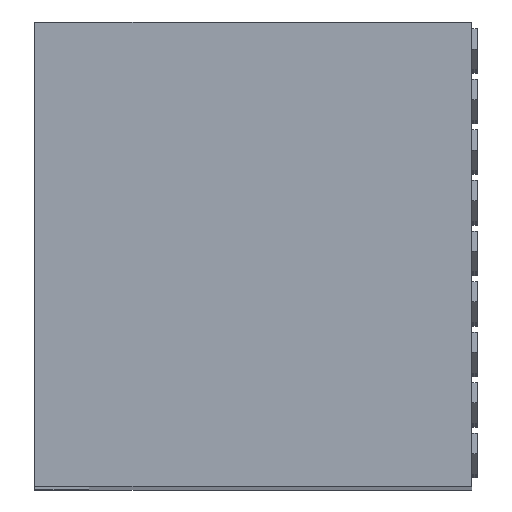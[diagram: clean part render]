
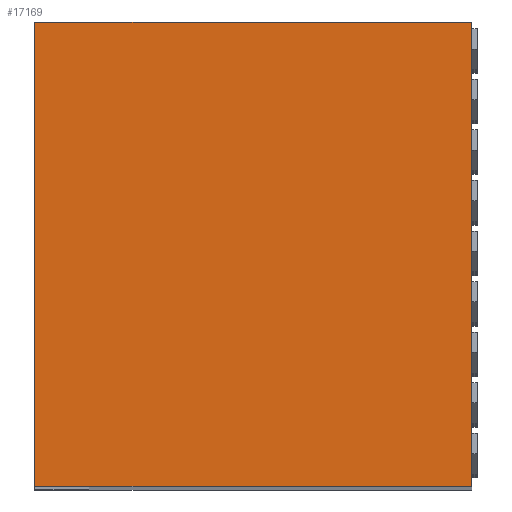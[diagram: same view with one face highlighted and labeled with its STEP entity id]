
A CAD part, top view. The second image highlights one B-rep face of the part: STEP entity #17169.
In plain terms, the highlighted planar face has unit normal (0, 0, 1).
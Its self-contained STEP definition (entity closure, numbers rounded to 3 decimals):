
#235=FACE_OUTER_BOUND('',#1441,.T.);
#1441=EDGE_LOOP('',(#12195,#12196,#12197,#12198));
#2470=LINE('',#23712,#4890);
#2475=LINE('',#23721,#4895);
#2479=LINE('',#23730,#4899);
#3270=LINE('',#25310,#5690);
#4890=VECTOR('',#19262,10.);
#4895=VECTOR('',#19269,10.);
#4899=VECTOR('',#19277,10.);
#5690=VECTOR('',#20070,10.);
#7295=VERTEX_POINT('',#23709);
#7296=VERTEX_POINT('',#23711);
#7299=VERTEX_POINT('',#23719);
#7302=VERTEX_POINT('',#23729);
#8922=EDGE_CURVE('',#7296,#7295,#2470,.F.);
#8927=EDGE_CURVE('',#7295,#7299,#2475,.F.);
#8931=EDGE_CURVE('',#7302,#7296,#2479,.F.);
#9722=EDGE_CURVE('',#7299,#7302,#3270,.F.);
#12195=ORIENTED_EDGE('',*,*,#8922,.T.);
#12196=ORIENTED_EDGE('',*,*,#8927,.T.);
#12197=ORIENTED_EDGE('',*,*,#9722,.T.);
#12198=ORIENTED_EDGE('',*,*,#8931,.T.);
#16161=PLANE('',#18197);
#17169=ADVANCED_FACE('',(#235),#16161,.T.);
#18197=AXIS2_PLACEMENT_3D('',#25312,#20073,#20074);
#19262=DIRECTION('',(1.,0.,0.));
#19269=DIRECTION('',(0.,1.,0.));
#19277=DIRECTION('',(0.,-1.,0.));
#20070=DIRECTION('',(-1.,0.,0.));
#20073=DIRECTION('center_axis',(0.,0.,1.));
#20074=DIRECTION('ref_axis',(1.,0.,0.));
#23709=CARTESIAN_POINT('',(-14.,8.5,39.));
#23711=CARTESIAN_POINT('',(2.,8.5,39.));
#23712=CARTESIAN_POINT('',(-3.,8.5,39.));
#23719=CARTESIAN_POINT('',(-14.,-8.5,39.));
#23721=CARTESIAN_POINT('',(-14.,3.25,39.));
#23729=CARTESIAN_POINT('',(2.,-8.5,39.));
#23730=CARTESIAN_POINT('',(2.,-3.25,39.));
#25310=CARTESIAN_POINT('',(-9.,-8.5,39.));
#25312=CARTESIAN_POINT('Origin',(-6.,0.,39.));
